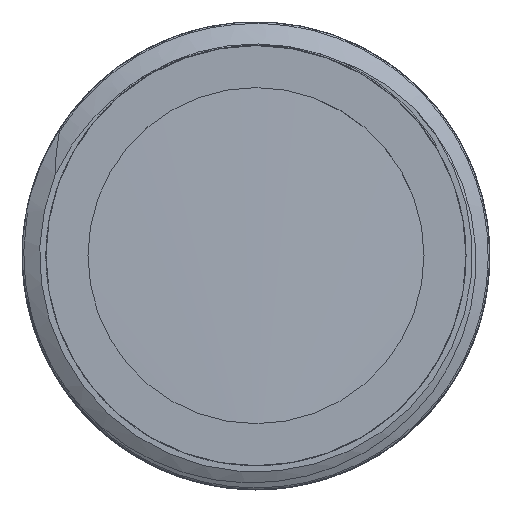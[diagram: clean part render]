
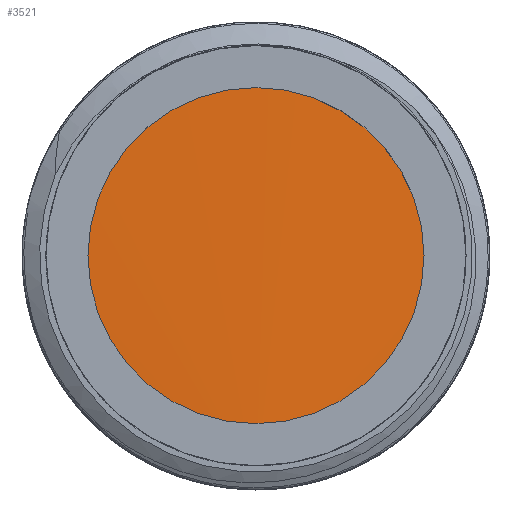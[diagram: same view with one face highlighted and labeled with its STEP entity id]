
A CAD part, top view. The second image highlights one B-rep face of the part: STEP entity #3521.
In plain terms, the highlighted cylindrical face has radius 13.22 mm (diameter 26.44 mm), a full revolution.
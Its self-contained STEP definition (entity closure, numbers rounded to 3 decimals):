
#248=B_SPLINE_CURVE_WITH_KNOTS('',3,(#7488,#7489,#7490,#7491,#7492,#7493,
#7494,#7495,#7496,#7497,#7498,#7499,#7500,#7501,#7502,#7503,#7504,#7505,
#7506,#7507,#7508,#7509,#7510,#7511,#7512,#7513,#7514,#7515,#7516,#7517,
#7518,#7519,#7520,#7521,#7522,#7523,#7524,#7525,#7526,#7527,#7528,#7529,
#7530),.UNSPECIFIED.,.F.,.F.,(4,3,3,3,3,3,3,3,3,3,3,3,3,3,4),(-25.133,
-24.997,-24.504,-24.01,-23.517,
-23.023,-22.53,-22.037,-21.543,
-21.05,-20.556,-20.063,-19.57,
-19.076,-18.85),.UNSPECIFIED.);
#399=CYLINDRICAL_SURFACE('',#3808,13.22);
#585=FACE_OUTER_BOUND('',#804,.T.);
#804=EDGE_LOOP('',(#3224,#3225,#3226));
#1013=LINE('',#7485,#1210);
#1014=LINE('',#7487,#1211);
#1210=VECTOR('',#4511,13.22);
#1211=VECTOR('',#4512,13.22);
#1707=VERTEX_POINT('',#7483);
#1708=VERTEX_POINT('',#7484);
#1709=VERTEX_POINT('',#7486);
#2219=EDGE_CURVE('',#1707,#1708,#1013,.T.);
#2220=EDGE_CURVE('',#1707,#1709,#1014,.T.);
#2221=EDGE_CURVE('',#1709,#1708,#248,.T.);
#3224=ORIENTED_EDGE('',*,*,#2219,.F.);
#3225=ORIENTED_EDGE('',*,*,#2220,.T.);
#3226=ORIENTED_EDGE('',*,*,#2221,.T.);
#3521=ADVANCED_FACE('',(#585),#399,.T.);
#3808=AXIS2_PLACEMENT_3D('',#7482,#4509,#4510);
#4509=DIRECTION('center_axis',(0.,0.,-1.));
#4510=DIRECTION('ref_axis',(0.,1.,0.));
#4511=DIRECTION('',(0.,0.,-1.));
#4512=DIRECTION('',(0.,0.,1.));
#7482=CARTESIAN_POINT('Origin',(0.,0.,41.8));
#7483=CARTESIAN_POINT('',(0.,-13.22,39.041));
#7484=CARTESIAN_POINT('',(0.,-13.22,37.241));
#7485=CARTESIAN_POINT('',(0.,-13.22,41.8));
#7486=CARTESIAN_POINT('',(0.,-13.22,39.058));
#7487=CARTESIAN_POINT('',(0.,-13.22,41.8));
#7488=CARTESIAN_POINT('Ctrl Pts',(0.,-13.22,
39.058));
#7489=CARTESIAN_POINT('Ctrl Pts',(-0.599,-13.22,
39.045));
#7490=CARTESIAN_POINT('Ctrl Pts',(-1.197,-13.18,39.031));
#7491=CARTESIAN_POINT('Ctrl Pts',(-1.789,-13.099,39.018));
#7492=CARTESIAN_POINT('Ctrl Pts',(-3.943,-12.805,38.971));
#7493=CARTESIAN_POINT('Ctrl Pts',(-6.023,-11.969,38.923));
#7494=CARTESIAN_POINT('Ctrl Pts',(-7.78,-10.689,38.876));
#7495=CARTESIAN_POINT('Ctrl Pts',(-9.538,-9.41,38.828));
#7496=CARTESIAN_POINT('Ctrl Pts',(-10.973,-7.689,38.781));
#7497=CARTESIAN_POINT('Ctrl Pts',(-11.915,-5.73,38.733));
#7498=CARTESIAN_POINT('Ctrl Pts',(-12.857,-3.771,38.686));
#7499=CARTESIAN_POINT('Ctrl Pts',(-13.306,-1.574,38.638));
#7500=CARTESIAN_POINT('Ctrl Pts',(-13.208,0.597,38.591));
#7501=CARTESIAN_POINT('Ctrl Pts',(-13.109,2.769,38.543));
#7502=CARTESIAN_POINT('Ctrl Pts',(-12.464,4.915,38.495));
#7503=CARTESIAN_POINT('Ctrl Pts',(-11.349,6.781,38.448));
#7504=CARTESIAN_POINT('Ctrl Pts',(-10.234,8.647,38.4));
#7505=CARTESIAN_POINT('Ctrl Pts',(-8.65,10.233,38.353));
#7506=CARTESIAN_POINT('Ctrl Pts',(-6.784,11.348,38.305));
#7507=CARTESIAN_POINT('Ctrl Pts',(-4.918,12.463,38.258));
#7508=CARTESIAN_POINT('Ctrl Pts',(-2.772,13.109,38.21));
#7509=CARTESIAN_POINT('Ctrl Pts',(-0.6,13.207,38.163));
#7510=CARTESIAN_POINT('Ctrl Pts',(1.571,13.306,38.115));
#7511=CARTESIAN_POINT('Ctrl Pts',(3.768,12.858,38.068));
#7512=CARTESIAN_POINT('Ctrl Pts',(5.727,11.916,38.02));
#7513=CARTESIAN_POINT('Ctrl Pts',(7.686,10.975,37.973));
#7514=CARTESIAN_POINT('Ctrl Pts',(9.408,9.54,37.925));
#7515=CARTESIAN_POINT('Ctrl Pts',(10.688,7.783,37.877));
#7516=CARTESIAN_POINT('Ctrl Pts',(11.967,6.025,37.83));
#7517=CARTESIAN_POINT('Ctrl Pts',(12.804,3.946,37.782));
#7518=CARTESIAN_POINT('Ctrl Pts',(13.099,1.792,37.735));
#7519=CARTESIAN_POINT('Ctrl Pts',(13.394,-0.361,37.687));
#7520=CARTESIAN_POINT('Ctrl Pts',(13.146,-2.589,37.64));
#7521=CARTESIAN_POINT('Ctrl Pts',(12.386,-4.626,37.592));
#7522=CARTESIAN_POINT('Ctrl Pts',(11.625,-6.662,37.545));
#7523=CARTESIAN_POINT('Ctrl Pts',(10.352,-8.507,37.497));
#7524=CARTESIAN_POINT('Ctrl Pts',(8.717,-9.94,37.45));
#7525=CARTESIAN_POINT('Ctrl Pts',(7.083,-11.373,37.402));
#7526=CARTESIAN_POINT('Ctrl Pts',(5.088,-12.395,37.355));
#7527=CARTESIAN_POINT('Ctrl Pts',(2.97,-12.883,37.307));
#7528=CARTESIAN_POINT('Ctrl Pts',(1.997,-13.107,37.285));
#7529=CARTESIAN_POINT('Ctrl Pts',(0.999,-13.219,37.263));
#7530=CARTESIAN_POINT('Ctrl Pts',(0.,-13.219,
37.241));
